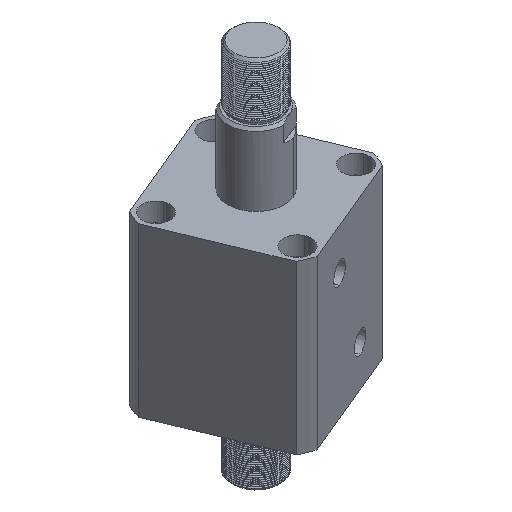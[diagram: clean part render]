
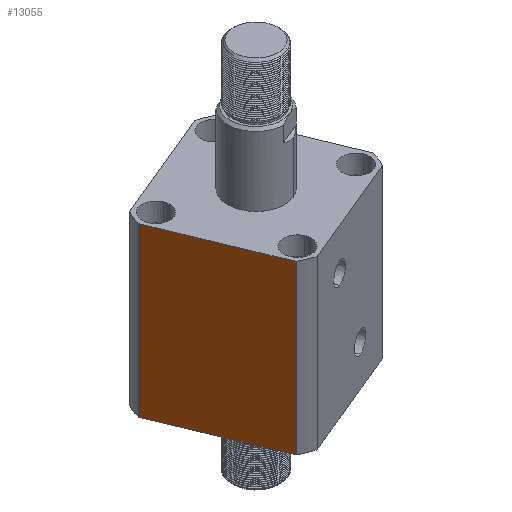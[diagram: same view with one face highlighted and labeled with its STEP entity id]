
A CAD part, isometric view. The second image highlights one B-rep face of the part: STEP entity #13055.
In plain terms, the highlighted planar face has unit normal (-0.924, -0.383, 0) as drawn and (1, 0, 0) by its records, which use the part's own axes.
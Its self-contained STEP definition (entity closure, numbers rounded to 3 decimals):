
#134 = EDGE_CURVE ( 'NONE', #16887, #10098, #9119, .T. ) ;
#843 = EDGE_CURVE ( 'NONE', #16887, #14910, #14044, .T. ) ;
#1151 = PLANE ( 'NONE',  #2990 ) ;
#1428 = EDGE_LOOP ( 'NONE', ( #16470, #25247, #24679, #17671 ) ) ;
#1511 = LINE ( 'NONE', #7850, #12285 ) ;
#2722 = DIRECTION ( 'NONE',  ( 0., 0., -1. ) ) ;
#2990 = AXIS2_PLACEMENT_3D ( 'NONE', #13277, #15311, #3199 ) ;
#3199 = DIRECTION ( 'NONE',  ( 0., -1., 0. ) ) ;
#5406 = DIRECTION ( 'NONE',  ( 0., 1., 0. ) ) ;
#7448 = CARTESIAN_POINT ( 'NONE',  ( 57., 57., 0. ) ) ;
#7850 = CARTESIAN_POINT ( 'NONE',  ( 57., 57., 133. ) ) ;
#8085 = VECTOR ( 'NONE', #2722, 1000. ) ;
#8687 = VECTOR ( 'NONE', #24223, 1000. ) ;
#9119 = LINE ( 'NONE', #7448, #13200 ) ;
#9847 = VERTEX_POINT ( 'NONE', #18870 ) ;
#10098 = VERTEX_POINT ( 'NONE', #13485 ) ;
#10929 = FACE_OUTER_BOUND ( 'NONE', #1428, .T. ) ;
#12032 = CARTESIAN_POINT ( 'NONE',  ( 57., -47.971, 0. ) ) ;
#12285 = VECTOR ( 'NONE', #21949, 1000. ) ;
#12690 = EDGE_CURVE ( 'NONE', #9847, #10098, #23537, .T. ) ;
#13055 = ADVANCED_FACE ( 'NONE', ( #10929 ), #1151, .F. ) ;
#13200 = VECTOR ( 'NONE', #5406, 1000. ) ;
#13277 = CARTESIAN_POINT ( 'NONE',  ( 57., 57., 133. ) ) ;
#13485 = CARTESIAN_POINT ( 'NONE',  ( 57., 47.971, 0. ) ) ;
#14044 = LINE ( 'NONE', #22217, #8687 ) ;
#14834 = CARTESIAN_POINT ( 'NONE',  ( 57., 47.971, -167. ) ) ;
#14910 = VERTEX_POINT ( 'NONE', #25822 ) ;
#15311 = DIRECTION ( 'NONE',  ( -1., 0., 0. ) ) ;
#16470 = ORIENTED_EDGE ( 'NONE', *, *, #843, .F. ) ;
#16887 = VERTEX_POINT ( 'NONE', #12032 ) ;
#17671 = ORIENTED_EDGE ( 'NONE', *, *, #20357, .F. ) ;
#18870 = CARTESIAN_POINT ( 'NONE',  ( 57., 47.971, 133. ) ) ;
#20357 = EDGE_CURVE ( 'NONE', #14910, #9847, #1511, .T. ) ;
#21949 = DIRECTION ( 'NONE',  ( 0., 1., 0. ) ) ;
#22217 = CARTESIAN_POINT ( 'NONE',  ( 57., -47.971, -167. ) ) ;
#23537 = LINE ( 'NONE', #14834, #8085 ) ;
#24223 = DIRECTION ( 'NONE',  ( 0., 0., 1. ) ) ;
#24679 = ORIENTED_EDGE ( 'NONE', *, *, #12690, .F. ) ;
#25247 = ORIENTED_EDGE ( 'NONE', *, *, #134, .T. ) ;
#25822 = CARTESIAN_POINT ( 'NONE',  ( 57., -47.971, 133. ) ) ;
